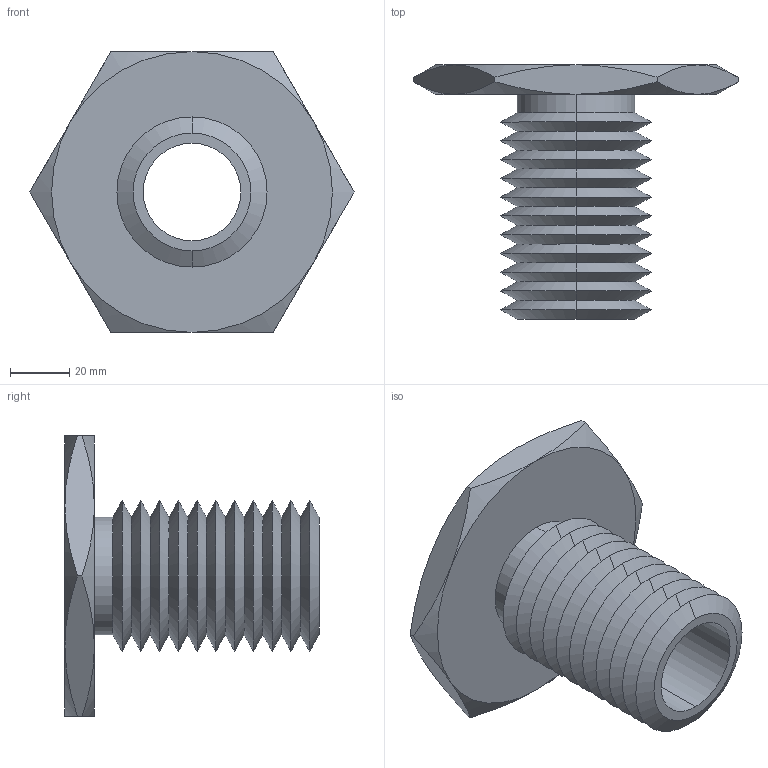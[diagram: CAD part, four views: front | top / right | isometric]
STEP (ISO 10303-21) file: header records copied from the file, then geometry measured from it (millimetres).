
FILE_DESCRIPTION (( 'STEP AP203' ), '1' );
FILE_NAME ('63302.W5200_M33x3,5.step', '2013-12-08T11:49:03', ( 'User' ), ( '' ), 'SwSTEP 2.0', 'SolidWorks 2009', '' );
FILE_SCHEMA (( 'CONFIG_CONTROL_DESIGN' ));
Length unit declared in the file: millimetre
Products named in the file (1): 63302.W5200_M33x3,5
Bounding box: 109.7 x 86 x 95 mm (x, y, z)
Volume: 122848.3 mm3; surface area: 45849.2 mm2
Topology: 1 solids, 1 shells, 71 faces, 146 edges, 78 vertices
Faces by surface type: cone 58, plane 9, cylinder 4
Entity records: 2071 total; most frequent: CARTESIAN_POINT 512, DIRECTION 332, ORIENTED_EDGE 292, EDGE_CURVE 146, AXIS2_PLACEMENT_3D 138, VERTEX_POINT 78, EDGE_LOOP 74, ADVANCED_FACE 71
